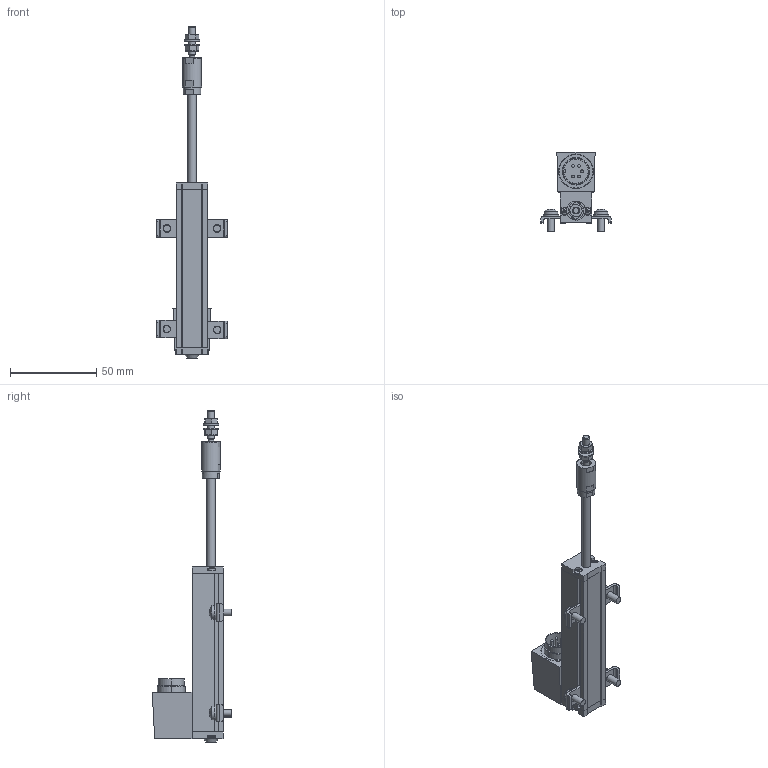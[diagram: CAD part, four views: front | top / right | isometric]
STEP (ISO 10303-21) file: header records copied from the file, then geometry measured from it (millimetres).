
FILE_DESCRIPTION (( 'STEP AP214' ), '1' );
FILE_NAME ('SPI18_S_50.STEP', '2019-04-23T08:38:59', ( '' ), ( '' ), 'SwSTEP 2.0', 'SolidWorks 2017', '' );
FILE_SCHEMA (( 'AUTOMOTIVE_DESIGN' ));
Length unit declared in the file: millimetre
Products named in the file (19): SPR18_S_Deckel_Stecker; SPI18E_Adapter_M8x0-5; SPI18E_Kupplung_M4; 09-0115-00-05_1_1_Serie680; Spannklammer_SPR18_m_S; hex nut style 1 gradeab_iso_ISO - 4032 - M4 - D - N; SPI18E_Endkappe; conical spring washer 1_din_DIN 6796-4; SPI18_50_K_Gehäuse; SPI18E_50_Schubstange; Spannklammer_SPR18; SPI18E_Endkappe_r點k_Ausbuchtung; Kupplungsachse_rundversion_M4; pan head cross recess screw_iso_ISO 7045 - M2 x 10 - Z - 10N; pan cross head_am_B18.6.7M - M4 x 0.7 x 10 Type I Cross Recessed PHMS --10N; SPI18_S_50; plain washer normal grade a_iso_Washer ISO 7089 - 4; SPI18-S_50_Gehäuse; Kupplungskoerper_rund_M4
Assembly tree (26 placements, depth 3):
  SPI18_S_50
    SPI18-S_50_Gehäuse
      SPI18_50_K_Gehäuse
      SPI18E_Endkappe
      SPI18E_Endkappe_r點k_Ausbuchtung
      pan head cross recess screw_iso_ISO 7045 - M2 x 10 - Z - 10N  x4
      SPR18_S_Deckel_Stecker
      09-0115-00-05_1_1_Serie680
    SPI18E_Kupplung_M4
      Kupplungskoerper_rund_M4
      Kupplungsachse_rundversion_M4
      hex nut style 1 gradeab_iso_ISO - 4032 - M4 - D - N  x2
      plain washer normal grade a_iso_Washer ISO 7089 - 4  x2
    SPI18E_50_Schubstange
    SPI18E_Adapter_M8x0-5
    Spannklammer_SPR18_m_S  x4
      Spannklammer_SPR18
      pan cross head_am_B18.6.7M - M4 x 0.7 x 10 Type I Cross Recessed PHMS --10N
      conical spring washer 1_din_DIN 6796-4
Bounding box: 41 x 46 x 192.11 mm (x, y, z)
Volume: 44404.1 mm3; surface area: 24004.7 mm2
Topology: 29 solids, 29 shells, 568 faces, 1277 edges, 792 vertices
Faces by surface type: plane 316, cylinder 130, cone 94, torus 13, sphere 8, bspline 7
Full cylindrical faces by diameter (mm): 1 x4, 1.6 x2, 2 x4, 2.2 x2, 2.3 x2, 2.5 x2, 3 x1, 3.2 x2, 3.3 x2, 4 x11, 4.3 x6, 4.5 x4, 5 x2, 5.2 x1, 6 x1, 7 x1, 8 x5, 9 x6, 10 x1, 11 x1, 19.5 x1
Entity records: 9828 total; most frequent: CARTESIAN_POINT 1724, DIRECTION 1581, ORIENTED_EDGE 1310, EDGE_CURVE 655, AXIS2_PLACEMENT_3D 627, VERTEX_POINT 450, EDGE_LOOP 425, FACE_OUTER_BOUND 360
